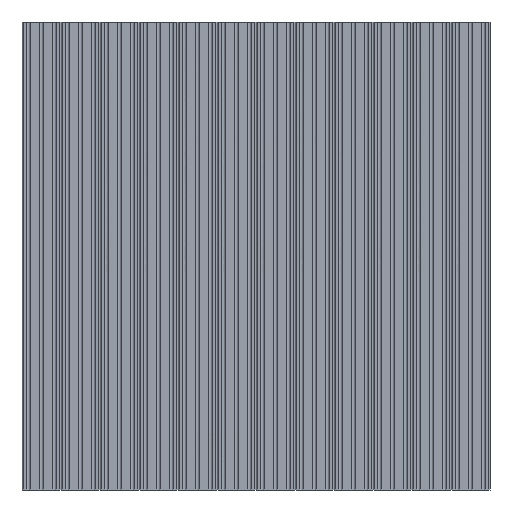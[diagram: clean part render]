
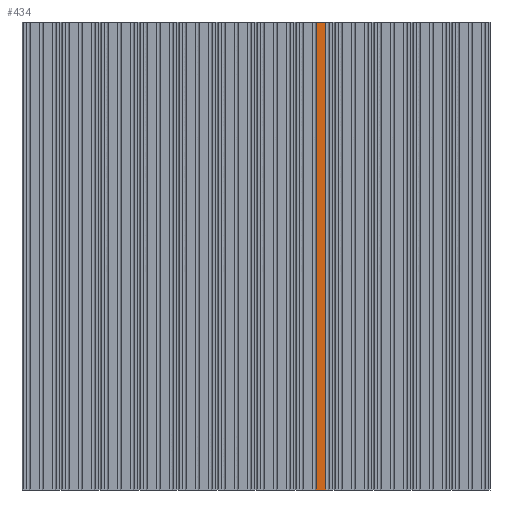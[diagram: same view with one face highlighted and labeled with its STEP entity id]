
A CAD part, front view. The second image highlights one B-rep face of the part: STEP entity #434.
In plain terms, the highlighted planar face has unit normal (0, -1, 0).
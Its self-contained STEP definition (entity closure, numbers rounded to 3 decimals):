
#224=PLANE('',#5271);
#434=ADVANCED_FACE('',(#770),#224,.T.);
#770=FACE_OUTER_BOUND('',#1034,.T.);
#1034=EDGE_LOOP('',(#1687,#1688,#1689,#1690));
#1687=ORIENTED_EDGE('',*,*,#3443,.T.);
#1688=ORIENTED_EDGE('',*,*,#3464,.F.);
#1689=ORIENTED_EDGE('',*,*,#3449,.T.);
#1690=ORIENTED_EDGE('',*,*,#3472,.F.);
#2923=VERTEX_POINT('',#7264);
#2924=VERTEX_POINT('',#7265);
#2929=VERTEX_POINT('',#7276);
#2930=VERTEX_POINT('',#7278);
#3443=EDGE_CURVE('',#2923,#2924,#4131,.T.);
#3449=EDGE_CURVE('',#2930,#2929,#4134,.T.);
#3464=EDGE_CURVE('',#2930,#2924,#4148,.T.);
#3472=EDGE_CURVE('',#2923,#2929,#4156,.T.);
#4131=LINE('',#7263,#4707);
#4134=LINE('',#7277,#4710);
#4148=LINE('',#7304,#4724);
#4156=LINE('',#7318,#4732);
#4707=VECTOR('',#5854,1.);
#4710=VECTOR('',#5865,1.);
#4724=VECTOR('',#5889,1.);
#4732=VECTOR('',#5901,1.);
#5271=AXIS2_PLACEMENT_3D('',#7319,#5902,#5903);
#5854=DIRECTION('',(0.,0.,1.));
#5865=DIRECTION('',(0.,0.,-1.));
#5889=DIRECTION('',(1.,0.,0.));
#5901=DIRECTION('',(-1.,0.,0.));
#5902=DIRECTION('',(0.,-1.,0.));
#5903=DIRECTION('',(1.,0.,0.));
#7263=CARTESIAN_POINT('',(107.25,0.,360.));
#7264=CARTESIAN_POINT('',(107.25,0.,0.));
#7265=CARTESIAN_POINT('',(107.25,0.,720.));
#7276=CARTESIAN_POINT('',(92.75,0.,0.));
#7277=CARTESIAN_POINT('',(92.75,0.,360.));
#7278=CARTESIAN_POINT('',(92.75,0.,720.));
#7304=CARTESIAN_POINT('',(100.,0.,720.));
#7318=CARTESIAN_POINT('',(100.,0.,0.));
#7319=CARTESIAN_POINT('',(92.749,0.,-0.001));
